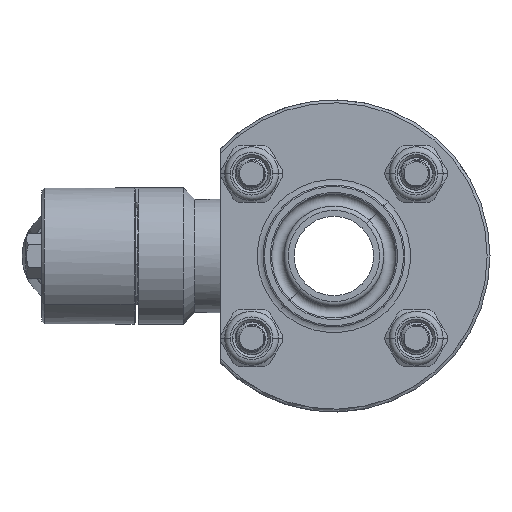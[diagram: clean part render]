
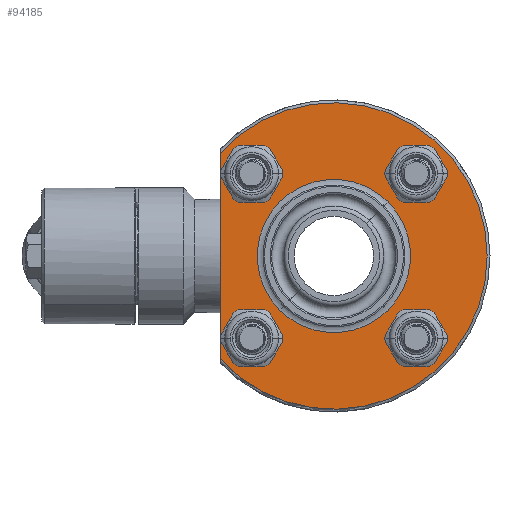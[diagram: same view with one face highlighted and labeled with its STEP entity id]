
A CAD part, left-side view. The second image highlights one B-rep face of the part: STEP entity #94185.
In plain terms, the highlighted planar face has unit normal (-1, 0, 0).
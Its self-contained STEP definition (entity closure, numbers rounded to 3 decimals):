
#3678=DIRECTION('',(0.,0.,1.));
#3679=VECTOR('',#3678,36.277);
#3680=CARTESIAN_POINT('',(-19.,20.,-18.138));
#3681=LINE('',#3680,#3679);
#3685=CARTESIAN_POINT('',(-19.,0.,0.));
#3686=DIRECTION('',(-1.,0.,0.));
#3687=DIRECTION('',(0.,0.707,-0.707));
#3688=AXIS2_PLACEMENT_3D('',#3685,#3686,#3687);
#3693=CARTESIAN_POINT('',(-19.,0.,0.));
#3694=DIRECTION('',(-1.,0.,0.));
#3695=DIRECTION('',(0.,-0.707,0.707));
#3696=AXIS2_PLACEMENT_3D('',#3693,#3694,#3695);
#3701=CARTESIAN_POINT('',(-19.,-14.496,-14.496));
#3702=DIRECTION('',(-1.,0.,0.));
#3703=DIRECTION('',(0.,1.,0.));
#3704=AXIS2_PLACEMENT_3D('',#3701,#3702,#3703);
#3709=CARTESIAN_POINT('',(-19.,-14.496,-14.496));
#3710=DIRECTION('',(-1.,0.,0.));
#3711=DIRECTION('',(0.,-1.,0.));
#3712=AXIS2_PLACEMENT_3D('',#3709,#3710,#3711);
#3717=CARTESIAN_POINT('',(-19.,14.496,-14.496));
#3718=DIRECTION('',(-1.,0.,0.));
#3719=DIRECTION('',(0.,1.,0.));
#3720=AXIS2_PLACEMENT_3D('',#3717,#3718,#3719);
#3725=CARTESIAN_POINT('',(-19.,14.496,-14.496));
#3726=DIRECTION('',(-1.,0.,0.));
#3727=DIRECTION('',(0.,-1.,0.));
#3728=AXIS2_PLACEMENT_3D('',#3725,#3726,#3727);
#3733=CARTESIAN_POINT('',(-19.,14.496,14.496));
#3734=DIRECTION('',(-1.,0.,0.));
#3735=DIRECTION('',(0.,1.,0.));
#3736=AXIS2_PLACEMENT_3D('',#3733,#3734,#3735);
#3741=CARTESIAN_POINT('',(-19.,14.496,14.496));
#3742=DIRECTION('',(-1.,0.,0.));
#3743=DIRECTION('',(0.,-1.,0.));
#3744=AXIS2_PLACEMENT_3D('',#3741,#3742,#3743);
#3749=CARTESIAN_POINT('',(-19.,-14.496,14.496));
#3750=DIRECTION('',(-1.,0.,0.));
#3751=DIRECTION('',(0.,1.,0.));
#3752=AXIS2_PLACEMENT_3D('',#3749,#3750,#3751);
#3757=CARTESIAN_POINT('',(-19.,-14.496,14.496));
#3758=DIRECTION('',(-1.,0.,0.));
#3759=DIRECTION('',(0.,-1.,0.));
#3760=AXIS2_PLACEMENT_3D('',#3757,#3758,#3759);
#3773=CARTESIAN_POINT('',(-19.,0.,0.));
#3774=DIRECTION('',(-1.,0.,0.));
#3775=DIRECTION('',(0.,0.741,-0.672));
#3776=AXIS2_PLACEMENT_3D('',#3773,#3774,#3775);
#3833=CARTESIAN_POINT('',(-19.,20.,18.138));
#3872=CARTESIAN_POINT('',(-19.,20.,-18.138));
#89138=CARTESIAN_POINT('',(-19.,9.546,-9.546));
#89139=CARTESIAN_POINT('',(-19.,-9.546,9.546));
#89140=VERTEX_POINT('',#89138);
#89141=VERTEX_POINT('',#89139);
#89163=VERTEX_POINT('',#3872);
#89164=VERTEX_POINT('',#3833);
#90326=CARTESIAN_POINT('',(-19.,-9.746,-14.496));
#90327=CARTESIAN_POINT('',(-19.,-19.246,-14.496));
#90328=VERTEX_POINT('',#90326);
#90329=VERTEX_POINT('',#90327);
#90439=CARTESIAN_POINT('',(-19.,19.246,-14.496));
#90440=CARTESIAN_POINT('',(-19.,9.746,-14.496));
#90441=VERTEX_POINT('',#90439);
#90442=VERTEX_POINT('',#90440);
#90552=CARTESIAN_POINT('',(-19.,19.246,14.496));
#90553=CARTESIAN_POINT('',(-19.,9.746,14.496));
#90554=VERTEX_POINT('',#90552);
#90555=VERTEX_POINT('',#90553);
#90665=CARTESIAN_POINT('',(-19.,-9.746,14.496));
#90666=CARTESIAN_POINT('',(-19.,-19.246,14.496));
#90667=VERTEX_POINT('',#90665);
#90668=VERTEX_POINT('',#90666);
#94145=CARTESIAN_POINT('',(-19.,0.,0.));
#94146=DIRECTION('',(-1.,0.,0.));
#94147=DIRECTION('',(0.,0.707,-0.707));
#94148=AXIS2_PLACEMENT_3D('',#94145,#94146,#94147);
#94149=PLANE('',#94148);
#94151=ORIENTED_EDGE('',*,*,#94150,.F.);
#94153=ORIENTED_EDGE('',*,*,#94152,.T.);
#94154=EDGE_LOOP('',(#94151,#94153));
#94155=FACE_OUTER_BOUND('',#94154,.F.);
#94156=ORIENTED_EDGE('',*,*,#94135,.T.);
#94158=ORIENTED_EDGE('',*,*,#94157,.T.);
#94159=EDGE_LOOP('',(#94156,#94158));
#94160=FACE_BOUND('',#94159,.F.);
#94162=ORIENTED_EDGE('',*,*,#94161,.T.);
#94164=ORIENTED_EDGE('',*,*,#94163,.T.);
#94165=EDGE_LOOP('',(#94162,#94164));
#94166=FACE_BOUND('',#94165,.F.);
#94168=ORIENTED_EDGE('',*,*,#94167,.T.);
#94170=ORIENTED_EDGE('',*,*,#94169,.T.);
#94171=EDGE_LOOP('',(#94168,#94170));
#94172=FACE_BOUND('',#94171,.F.);
#94174=ORIENTED_EDGE('',*,*,#94173,.T.);
#94176=ORIENTED_EDGE('',*,*,#94175,.T.);
#94177=EDGE_LOOP('',(#94174,#94176));
#94178=FACE_BOUND('',#94177,.F.);
#94180=ORIENTED_EDGE('',*,*,#94179,.T.);
#94182=ORIENTED_EDGE('',*,*,#94181,.T.);
#94183=EDGE_LOOP('',(#94180,#94182));
#94184=FACE_BOUND('',#94183,.F.);
#3689=CIRCLE('',#3688,13.5);
#3697=CIRCLE('',#3696,13.5);
#3705=CIRCLE('',#3704,4.75);
#3713=CIRCLE('',#3712,4.75);
#3721=CIRCLE('',#3720,4.75);
#3729=CIRCLE('',#3728,4.75);
#3737=CIRCLE('',#3736,4.75);
#3745=CIRCLE('',#3744,4.75);
#3753=CIRCLE('',#3752,4.75);
#3761=CIRCLE('',#3760,4.75);
#3777=CIRCLE('',#3776,27.);
#94135=EDGE_CURVE('',#89140,#89141,#3689,.T.);
#94150=EDGE_CURVE('',#89163,#89164,#3777,.T.);
#94152=EDGE_CURVE('',#89163,#89164,#3681,.T.);
#94157=EDGE_CURVE('',#89141,#89140,#3697,.T.);
#94161=EDGE_CURVE('',#90328,#90329,#3705,.T.);
#94163=EDGE_CURVE('',#90329,#90328,#3713,.T.);
#94167=EDGE_CURVE('',#90441,#90442,#3721,.T.);
#94169=EDGE_CURVE('',#90442,#90441,#3729,.T.);
#94173=EDGE_CURVE('',#90554,#90555,#3737,.T.);
#94175=EDGE_CURVE('',#90555,#90554,#3745,.T.);
#94179=EDGE_CURVE('',#90667,#90668,#3753,.T.);
#94181=EDGE_CURVE('',#90668,#90667,#3761,.T.);
#94185=ADVANCED_FACE('',(#94155,#94160,#94166,#94172,#94178,#94184),#94149,.T.);
